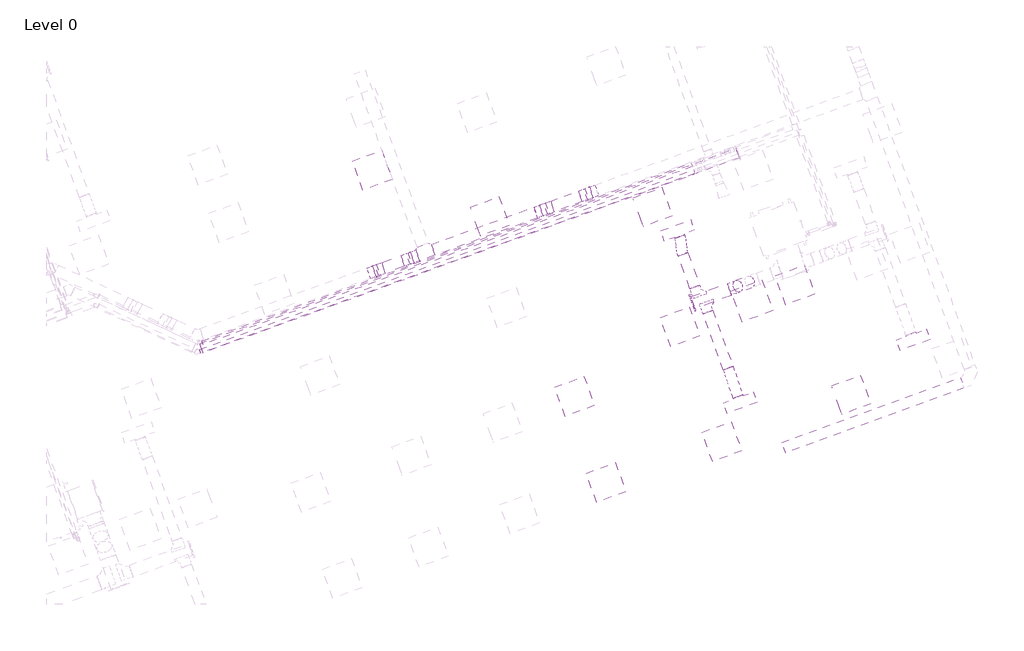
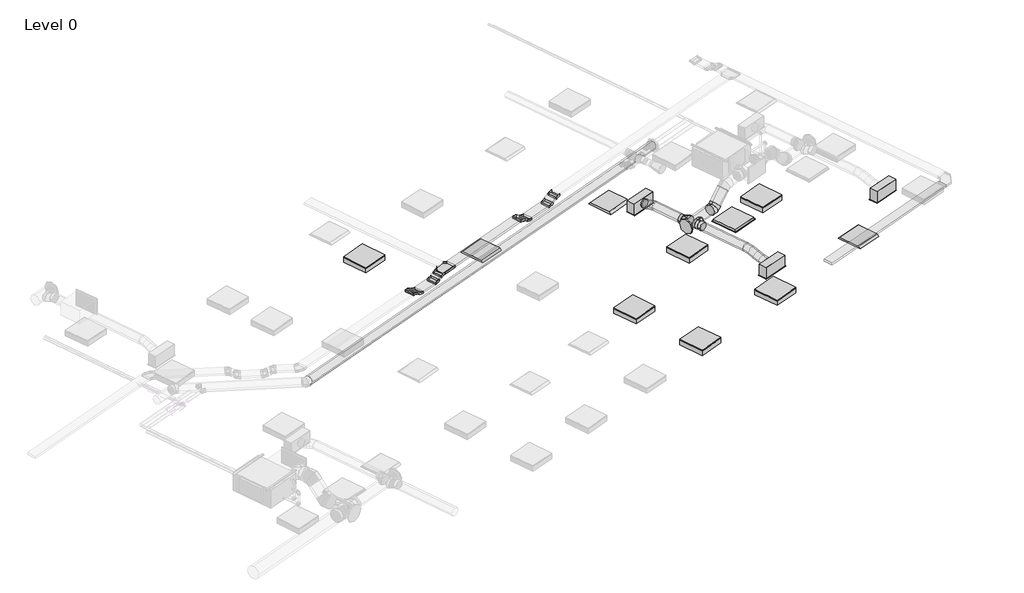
# One storey, part 28 of 34: 9 cable carrier fittings, 9 light fixtures, 8 cable carrier segments, 7 duct segments, 4 air terminals, 4 duct fittings, 2 pipe segments.
"""IFC4 building model written with IfcOpenShell, lengths in millimetres."""

from ifc_helpers import new_model, si_unit, point, frame, frame_2d, origin, place, context, project, spatial, polyline, circle_curve, ellipse_curve, trimmed, segment, composite_curve, outline, extrude, transform, mapped, element, save
from ifc_brep_helpers import plane_surface, cylinder_surface, advanced_brep
from components import return_grille_rectangular_hosted_standard_7b12617c, supply_diffuser_with_plenum_linear_slot_hosted_8c379eed, cable_tray_horizontal_tee_standard_d76b5e15, cable_tray_vertical_inside_bend_standard_9a66f55b, cable_tray_vertical_outside_bend_standard_4df2047e, dw144_round_blank_end_standard_e3d0b58b, dw144_round_segmented_bend_slip_joint_standard_636bd9c1, dw144_round_shoe_branch_slip_joint1_standard_2_559552f4, light_fixture_b730b5ca, troffer_light_2x2_parabolic_2_x2_2_lamp_120v_6a063ff3

model = new_model("IFC4")

# Units and contexts
model_context = context("Model", 3, world=origin())
ifc_project = project(units=[si_unit("LENGTHUNIT", "METRE", prefix="MILLI")], contexts=[model_context])

# Site, building, storey
site = spatial("IfcSite", under=ifc_project)
building = spatial("IfcBuilding", under=site)
storey = spatial("IfcBuildingStorey", under=building, Name="Level 0", Elevation=0.0)

# Air terminals
placement = place(None, origin())
return_grille_rectangular_hosted_standard_shape = return_grille_rectangular_hosted_standard_7b12617c(model_context)
element("IfcAirTerminal", 1, ObjectType="Return Grille - Rectangular - Hosted : Standard", at=placement, inside=storey, context=model_context, shape_type="MappedRepresentation", body=[
    mapped(return_grille_rectangular_hosted_standard_shape, transform((60068.7424503, 13719.2784407, 2800.0), x_axis=(0.9396926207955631, 0.3420201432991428, 0.0), y_axis=(0.3420201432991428, -0.9396926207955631, 0.0), z_axis=(0.0, 0.0, -1.0))),
])
supply_diffuser_with_plenum_linear_slot_hosted_shape = supply_diffuser_with_plenum_linear_slot_hosted_8c379eed(model_context)
element("IfcAirTerminal", 2, ObjectType="Supply Diffuser with Plenum - Linear Slot - Hosted : 24\" x 8\"-200 In Inlet  4-Slot", at=placement, inside=storey, context=model_context, shape_type="MappedRepresentation", body=[
    mapped(supply_diffuser_with_plenum_linear_slot_hosted_shape, transform((58607.3828335, 15102.9070291, 2800.0), x_axis=(-0.9396926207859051, -0.3420201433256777, 0.0), y_axis=(-0.3420201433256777, 0.9396926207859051, 0.0), z_axis=(0.0, 0.0, -1.0))),
])
element("IfcAirTerminal", 3, ObjectType="Supply Diffuser with Plenum - Linear Slot - Hosted : 24\" x 8\"-200 In Inlet  4-Slot", at=placement, inside=storey, context=model_context, shape_type="MappedRepresentation", body=[
    mapped(supply_diffuser_with_plenum_linear_slot_hosted_shape, transform((59838.6553495, 11720.0135943, 2800.0), x_axis=(0.9396926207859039, 0.342020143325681, 0.0), y_axis=(0.342020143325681, -0.9396926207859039, 0.0), z_axis=(0.0, 0.0, -1.0))),
])
element("IfcAirTerminal", 4, ObjectType="Supply Diffuser with Plenum - Linear Slot - Hosted : 24\" x 8\"-200 In Inlet  4-Slot", at=placement, inside=storey, context=model_context, shape_type="MappedRepresentation", body=[
    mapped(supply_diffuser_with_plenum_linear_slot_hosted_shape, transform((63232.5431876, 12955.2877458, 2800.0), x_axis=(0.9396926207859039, 0.342020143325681, 0.0), y_axis=(0.342020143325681, -0.9396926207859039, 0.0), z_axis=(0.0, 0.0, -1.0))),
])

# Cable carrier fittings
cable_tray_horizontal_tee_standard_shape = cable_tray_horizontal_tee_standard_d76b5e15(model_context)
element("IfcCableCarrierFitting", 5, ObjectType="Cable Tray Horizontal Tee : Standard", at=placement, inside=storey, context=model_context, shape_type="MappedRepresentation", body=[
    mapped(cable_tray_horizontal_tee_standard_shape, transform((53662.1916852, 14665.8825169, 3248.9627355), x_axis=(-0.9396926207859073, -0.3420201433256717, 0.0), y_axis=(0.3420201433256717, -0.9396926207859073, 0.0), z_axis=(0.0, 0.0, 1.0))),
])
cable_tray_vertical_inside_bend_standard_shape = cable_tray_vertical_inside_bend_standard_9a66f55b(model_context)
element("IfcCableCarrierFitting", 6, ObjectType="Cable Tray Vertical Inside Bend : Standard", at=placement, inside=storey, context=model_context, shape_type="MappedRepresentation", body=[
    mapped(cable_tray_vertical_inside_bend_standard_shape, transform((56092.1995201, 15550.3330379, 3125.0), x_axis=(-0.9396926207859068, -0.3420201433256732, 0.0), y_axis=(0.0, 0.0, 1.0), z_axis=(-0.3420201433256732, 0.9396926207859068, 0.0))),
])
element("IfcCableCarrierFitting", 7, ObjectType="Cable Tray Vertical Inside Bend : Standard", at=placement, inside=storey, context=model_context, shape_type="MappedRepresentation", body=[
    mapped(cable_tray_vertical_inside_bend_standard_shape, transform((56761.0702068, 15793.7820584, 3125.0), x_axis=(-0.8137976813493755, -0.29619813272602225, -0.4999999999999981), y_axis=(-0.46984631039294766, -0.17101007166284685, 0.8660254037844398), z_axis=(-0.3420201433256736, 0.9396926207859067, 0.0))),
])
element("IfcCableCarrierFitting", 8, ObjectType="Cable Tray Vertical Inside Bend : Standard", at=placement, inside=storey, context=model_context, shape_type="MappedRepresentation", body=[
    mapped(cable_tray_vertical_inside_bend_standard_shape, transform((52776.5170732, 14343.5233209, 3148.9627355), x_axis=(-0.9396926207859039, -0.3420201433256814, 0.0), y_axis=(0.0, 0.0, 1.0000000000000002), z_axis=(-0.3420201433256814, 0.9396926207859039, 0.0))),
])
element("IfcCableCarrierFitting", 9, ObjectType="Cable Tray Vertical Inside Bend : Standard", at=placement, inside=storey, context=model_context, shape_type="MappedRepresentation", body=[
    mapped(cable_tray_vertical_inside_bend_standard_shape, transform((53283.7846283, 14528.1536118, 3148.9627355), x_axis=(-0.8137976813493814, -0.29619813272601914, -0.4999999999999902), y_axis=(-0.4698463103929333, -0.17101007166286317, 0.8660254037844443), z_axis=(-0.3420201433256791, 0.9396926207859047, 0.0))),
])
cable_tray_vertical_outside_bend_standard_shape = cable_tray_vertical_outside_bend_standard_4df2047e(model_context)
element("IfcCableCarrierFitting", 10, ObjectType="Cable Tray Vertical Outside Bend : Standard", at=placement, inside=storey, context=model_context, shape_type="MappedRepresentation", body=[
    mapped(cable_tray_vertical_outside_bend_standard_shape, transform((55890.4383468, 15476.8979763, 3248.9627355), x_axis=(0.9396926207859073, 0.3420201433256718, 0.0), y_axis=(0.0, 0.0, -1.0000000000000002), z_axis=(-0.3420201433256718, 0.9396926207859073, 0.0))),
])
element("IfcCableCarrierFitting", 11, ObjectType="Cable Tray Vertical Outside Bend : Standard", at=placement, inside=storey, context=model_context, shape_type="MappedRepresentation", body=[
    mapped(cable_tray_vertical_outside_bend_standard_shape, transform((56962.8313802, 15867.2171199, 3248.9627355), x_axis=(0.8137976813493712, 0.29619813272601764, 0.5000000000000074), y_axis=(0.4698463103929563, 0.17101007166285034, -0.8660254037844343), z_axis=(-0.3420201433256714, 0.9396926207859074, 0.0))),
])
element("IfcCableCarrierFitting", 12, ObjectType="Cable Tray Vertical Outside Bend : Standard", at=placement, inside=storey, context=model_context, shape_type="MappedRepresentation", body=[
    mapped(cable_tray_vertical_outside_bend_standard_shape, transform((52613.757537, 14284.2836944, 3248.9627355), x_axis=(0.9396926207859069, 0.34202014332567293, 0.0), y_axis=(0.0, 0.0, -1.0), z_axis=(-0.34202014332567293, 0.9396926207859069, 0.0))),
])
element("IfcCableCarrierFitting", 13, ObjectType="Cable Tray Vertical Outside Bend : Standard", at=placement, inside=storey, context=model_context, shape_type="MappedRepresentation", body=[
    mapped(cable_tray_vertical_outside_bend_standard_shape, transform((53446.5441646, 14587.3932383, 3248.9627355), x_axis=(0.8137976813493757, 0.29619813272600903, 0.5000000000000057), y_axis=(0.4698463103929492, 0.17101007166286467, -0.8660254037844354), z_axis=(-0.34202014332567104, 0.9396926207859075, 0.0))),
])

# Cable carrier segments
element("IfcCableCarrierSegment", 14, ObjectType="Perforated Cable Tray", at=placement, inside=storey, context=model_context, shape_type="SweptSolid", body=[
    extrude(outline(polyline([(53853.3690022, 14615.7453704), (53776.4144699, 14827.17621), (55789.0136109, 15559.7023909), (55865.9681432, 15348.2715512), (53853.3690022, 14615.7453704)])), frame((0.0, 0.0, 3223.9627355), z_axis=(0.0, 0.0, 1.0), x_axis=(1.0, 0.0, 0.0)), (0.0, 0.0, 1.0), 50.0),
])
element("IfcCableCarrierSegment", 15, ObjectType="Perforated Cable Tray", at=placement, inside=storey, context=model_context, shape_type="SweptSolid", body=[
    extrude(outline(polyline([(0.0, -225.0), (0.0, 0.0), (113.9508747, 0.0), (113.9508747, -225.0), (0.0, -225.0)])), frame((55894.7290307, 15598.179657, 3193.8184513), z_axis=(0.4698463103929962, 0.1710100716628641, 0.8660254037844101), x_axis=(0.8137976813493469, 0.29619813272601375, -0.5000000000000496)), (0.0, 0.0, 1.0), 50.0),
])
element("IfcCableCarrierSegment", 16, ObjectType="Perforated Cable Tray", at=placement, inside=storey, context=model_context, shape_type="SweptSolid", body=[
    extrude(outline(polyline([(56193.624256, 15467.5286233), (56116.6697237, 15678.959463), (56659.645471, 15876.5864729), (56736.6000032, 15665.1556332), (56193.624256, 15467.5286233)])), frame((0.0, 0.0, 3100.0), z_axis=(0.0, 0.0, 1.0), x_axis=(1.0, 0.0, 0.0)), (0.0, 0.0, 1.0), 50.0),
])
element("IfcCableCarrierSegment", 17, ObjectType="Perforated Cable Tray", at=placement, inside=storey, context=model_context, shape_type="SweptSolid", body=[
    extrude(outline(polyline([(1e-07, -224.9999999), (0.0, 0.0), (113.9508747, 0.0), (113.9508747, -224.9999999), (1e-07, -224.9999999)])), frame((56788.8532063, 15923.6142426, 3136.843014), z_axis=(-0.4698463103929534, -0.17101007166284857, 0.8660254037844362), x_axis=(0.813797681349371, 0.2961981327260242, 0.5000000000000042)), (0.0, 0.0, 1.0), 50.0),
])
element("IfcCableCarrierSegment", 18, ObjectType="Perforated Cable Tray", at=placement, inside=storey, context=model_context, shape_type="SweptSolid", body=[
    extrude(outline(polyline([(64157.7578179, 12218.7489992), (64234.7123502, 12007.3181595), (60729.218143, 10731.4226117), (60652.2636108, 10942.8534514), (64157.7578179, 12218.7489992)])), frame((0.0, 0.0, 3223.9627355), z_axis=(0.0, 0.0, 1.0), x_axis=(1.0, 0.0, 0.0)), (0.0, 0.0, 1.0), 50.0),
])
element("IfcCableCarrierSegment", 19, ObjectType="Perforated Cable Tray", at=placement, inside=storey, context=model_context, shape_type="SweptSolid", body=[
    extrude(outline(polyline([(1e-07, -224.9999999), (0.0, 0.0), (66.0254039, 0.0), (66.0254038, -225.0), (1e-07, -224.9999999)])), frame((52618.0482209, 14405.565375, 3193.8184513), z_axis=(0.46984631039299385, 0.17101007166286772, 0.8660254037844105), x_axis=(0.8137976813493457, 0.2961981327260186, -0.5000000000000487)), (0.0, 0.0, 1.0), 50.0),
])
element("IfcCableCarrierSegment", 20, ObjectType="Perforated Cable Tray", at=placement, inside=storey, context=model_context, shape_type="SweptSolid", body=[
    extrude(outline(polyline([(52877.9418091, 14260.7189064), (52800.9872768, 14472.149746), (53182.3598925, 14610.9580263), (53259.3144247, 14399.5271866), (52877.9418091, 14260.7189064)])), frame((0.0, 0.0, 3123.9627355), z_axis=(0.0, 0.0, 1.0), x_axis=(1.0, 0.0, 0.0)), (0.0, 0.0, 1.0), 50.0),
])
element("IfcCableCarrierSegment", 21, ObjectType="Perforated Cable Tray", at=placement, inside=storey, context=model_context, shape_type="SweptSolid", body=[
    extrude(outline(polyline([(0.0, -225.0), (0.0, 0.0), (66.0254038, 0.0), (66.0254038, -225.0), (0.0, -225.0)])), frame((53311.5676278, 14657.985796, 3160.8057494), z_axis=(-0.46984631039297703, -0.17101007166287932, 0.8660254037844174), x_axis=(0.8137976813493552, 0.2961981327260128, 0.5000000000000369)), (0.0, 0.0, 1.0), 50.0),
])

# Duct fittings
dw144_round_blank_end_standard_shape = dw144_round_blank_end_standard_e3d0b58b(model_context)
element("IfcDuctFitting", 22, ObjectType="DW144 Round Blank End : Standard", at=placement, inside=storey, context=model_context, shape_type="MappedRepresentation", body=[
    mapped(dw144_round_blank_end_standard_shape, transform((58910.1934303, 13684.7593256, 3072.2088531), x_axis=(-0.9396926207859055, -0.3420201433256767, 0.0), y_axis=(0.3420201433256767, -0.9396926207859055, 0.0), z_axis=(0.0, 0.0, 1.0))),
])
dw144_round_segmented_bend_slip_joint_standard_shape = dw144_round_segmented_bend_slip_joint_standard_636bd9c1(model_context)
element("IfcDuctFitting", 23, ObjectType="DW144 Round Segmented Bend - Slip Joint : Standard", at=placement, inside=storey, context=model_context, shape_type="MappedRepresentation", body=[
    mapped(dw144_round_segmented_bend_slip_joint_standard_shape, transform((59723.6586367, 13980.8364474, 3072.2088531), x_axis=(-0.6644630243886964, -0.24184476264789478, -0.7071067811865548), y_axis=(-0.6644630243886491, -0.24184476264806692, 0.7071067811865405), z_axis=(-0.34202014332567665, 0.9396926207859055, 0.0))),
])
dw144_round_shoe_branch_slip_joint1_standard_2_shape = dw144_round_shoe_branch_slip_joint1_standard_2_559552f4(model_context)
element("IfcDuctFitting", 24, ObjectType="DW144 Round Shoe Branch - Slip Joint1 : Standard 2", at=placement, inside=storey, context=model_context, shape_type="MappedRepresentation", body=[
    mapped(dw144_round_shoe_branch_slip_joint1_standard_2_shape, transform((58998.2785619, 13849.8419132, 3072.2088531), x_axis=(-0.3420201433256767, 0.9396926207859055, 0.0), y_axis=(0.9396926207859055, 0.3420201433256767, 0.0), z_axis=(0.0, 0.0, -1.0))),
])
element("IfcDuctFitting", 25, ObjectType="DW144 Round Shoe Branch - Slip Joint1 : Standard 2", at=placement, inside=storey, context=model_context, shape_type="MappedRepresentation", body=[
    mapped(dw144_round_shoe_branch_slip_joint1_standard_2_shape, transform((59152.3357519, 13639.8697016, 3072.2088531), x_axis=(0.3420201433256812, -0.9396926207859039, 0.0), y_axis=(0.9396926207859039, 0.3420201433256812, 0.0), z_axis=(0.0, 0.0, 1.0))),
])

# Duct segments
element("IfcDuctSegment", 26, ObjectType="DW144 Segmented Bend / Shoe Branch", at=placement, inside=storey, context=model_context, shape_type="SweptSolid", body=[
    extrude(outline(composite_curve([segment(trimmed(circle_curve(frame_2d((0.0, 125.0)), 125.0), [point((125.0, 125.0))], [point((0.0, 0.0))], False, "CARTESIAN"), True, "CONTINUOUS"), segment(trimmed(circle_curve(frame_2d((0.0, 125.0)), 125.0), [point((0.0, 0.0))], [point((-125.0, 125.0))], False, "CARTESIAN"), True, "CONTINUOUS"), segment(trimmed(circle_curve(frame_2d((0.0, 125.0)), 125.0), [point((-125.0, 125.0))], [point((0.0, 250.0))], False, "CARTESIAN"), True, "CONTINUOUS"), segment(trimmed(circle_curve(frame_2d((0.0, 125.0)), 125.0), [point((0.0, 250.0))], [point((125.0, 125.0))], False, "CARTESIAN"), True, "CONTINUOUS")], self_intersect=False)), frame((58910.1934303, 13684.7593256, 3197.2088531), z_axis=(0.9396926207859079, 0.3420201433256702, 0.0), x_axis=(0.3420201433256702, -0.9396926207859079, 0.0)), (0.0, 0.0, 1.0), 762.1182008),
])
element("IfcDuctSegment", 27, ObjectType="DW144 Segmented Bend / Shoe Branch", at=placement, inside=storey, context=model_context, shape_type="SweptSolid", body=[
    extrude(outline(composite_curve([segment(trimmed(circle_curve(frame_2d((0.0, -100.0)), 100.0), [point((-100.0, -100.0))], [point((0.0, 0.0))], False, "CARTESIAN"), True, "CONTINUOUS"), segment(trimmed(circle_curve(frame_2d((0.0, -100.0)), 100.0), [point((0.0, 0.0))], [point((100.0, -100.0))], False, "CARTESIAN"), True, "CONTINUOUS"), segment(trimmed(circle_curve(frame_2d((0.0, -100.0)), 100.0), [point((100.0, -100.0))], [point((0.0, -200.0))], False, "CARTESIAN"), True, "CONTINUOUS"), segment(trimmed(circle_curve(frame_2d((0.0, -100.0)), 100.0), [point((0.0, -200.0))], [point((-100.0, -100.0))], False, "CARTESIAN"), True, "CONTINUOUS")], self_intersect=False)), frame((58946.9755404, 13990.7958063, 2972.2088531), z_axis=(-0.3420201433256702, 0.9396926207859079, 0.0), x_axis=(0.9396926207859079, 0.3420201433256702, 0.0)), (0.0, 0.0, 1.0), 682.8884371),
])
element("IfcDuctSegment", 28, ObjectType="DW144 Segmented Bend / Shoe Branch", at=placement, inside=storey, context=model_context, shape_type="SweptSolid", body=[
    extrude(outline(composite_curve([segment(trimmed(circle_curve(frame_2d((0.0, -100.0)), 100.0), [point((-100.0, -100.0))], [point((0.0, 0.0))], False, "CARTESIAN"), True, "CONTINUOUS"), segment(trimmed(circle_curve(frame_2d((0.0, -100.0)), 100.0), [point((0.0, 0.0))], [point((100.0, -100.0))], False, "CARTESIAN"), True, "CONTINUOUS"), segment(trimmed(circle_curve(frame_2d((0.0, -100.0)), 100.0), [point((100.0, -100.0))], [point((0.0, -200.0))], False, "CARTESIAN"), True, "CONTINUOUS"), segment(trimmed(circle_curve(frame_2d((0.0, -100.0)), 100.0), [point((0.0, -200.0))], [point((-100.0, -100.0))], False, "CARTESIAN"), True, "CONTINUOUS")], self_intersect=False)), frame((59604.382353, 12397.8818724, 2972.2088531), z_axis=(-0.3420201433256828, 0.9396926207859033, 0.0), x_axis=(0.9396926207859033, 0.3420201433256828, 0.0)), (0.0, 0.0, 1.0), 1171.6958415),
])
element("IfcDuctSegment", 29, ObjectType="DW144 Segmented Bend / Shoe Branch", at=placement, inside=storey, context=model_context, shape_type="SweptSolid", body=[
    extrude(outline(composite_curve([segment(trimmed(circle_curve(frame_2d((0.0, -125.0)), 125.0), [point((-57.2076922, -13.8591887))], [point((111.1408113, -67.7923077))], False, "CARTESIAN"), True, "CONTINUOUS"), segment(trimmed(circle_curve(frame_2d((0.0, -125.0)), 125.0), [point((111.1408113, -67.7923077))], [point((57.2076923, -236.1408114))], False, "CARTESIAN"), True, "CONTINUOUS"), segment(trimmed(circle_curve(frame_2d((0.0, -125.0)), 125.0), [point((57.2076923, -236.1408114))], [point((-111.1408114, -182.2076923))], False, "CARTESIAN"), True, "CONTINUOUS"), segment(trimmed(circle_curve(frame_2d((0.0, -125.0)), 125.0), [point((-111.1408114, -182.2076923))], [point((-57.2076922, -13.8591887))], False, "CARTESIAN"), True, "CONTINUOUS")], self_intersect=False)), frame((59792.4660358, 14124.1538736, 3104.9802107), z_axis=(0.6644630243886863, 0.24184476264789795, 0.7071067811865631), x_axis=(0.7473211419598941, -0.21503058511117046, -0.6287073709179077)), (0.0, 0.0, 1.0), 354.8538129),
])
element("IfcDuctSegment", 30, ObjectType="DW144 Segmented Bend / Shoe Branch", at=placement, inside=storey, context=model_context, shape_type="SweptSolid", body=[
    extrude(outline(composite_curve([segment(trimmed(circle_curve(frame_2d((0.0, 100.0)), 100.0), [point((100.0, 100.0))], [point((0.0, 0.0))], False, "CARTESIAN"), True, "CONTINUOUS"), segment(trimmed(circle_curve(frame_2d((0.0, 100.0)), 100.0), [point((0.0, 0.0))], [point((-100.0, 100.0))], False, "CARTESIAN"), True, "CONTINUOUS"), segment(trimmed(circle_curve(frame_2d((0.0, 100.0)), 100.0), [point((-100.0, 100.0))], [point((0.0, 200.0))], False, "CARTESIAN"), True, "CONTINUOUS"), segment(trimmed(circle_curve(frame_2d((0.0, 100.0)), 100.0), [point((0.0, 200.0))], [point((100.0, 100.0))], False, "CARTESIAN"), True, "CONTINUOUS")], self_intersect=False)), frame((49264.7509772, 12791.2817801, 3150.0), z_axis=(0.9396926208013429, 0.3420201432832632, 0.0), x_axis=(0.3420201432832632, -0.9396926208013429, 0.0)), (0.0, 0.0, 1.0), 11193.8317045),
])
element("IfcDuctSegment", 31, ObjectType="Flex - Round", at=placement, inside=storey, context=model_context, shape_type="AdvancedBrep", body=[
    advanced_brep(
    [(58619.4446772, 14598.2990171, 3072.2088531), (58713.4139393, 14632.5010315, 2972.2088531), (58807.3832013, 14666.7030458, 3072.2088531), (58713.4139393, 14632.5010315, 3172.2088531), (58611.8142221, 14619.26352, 3072.2088531), (58711.4296321, 14637.9528704, 2972.2088531), (58803.6155299, 14677.054638, 3072.2088531), (58704.0001199, 14658.3652876, 3172.2088531), (58557.4999679, 14947.578636, 2954.4), (58651.46923, 14981.7806503, 3054.4), (58745.4384921, 15015.9826646, 2954.4), (58651.46923, 14981.7806503, 2854.4), (58596.4446641, 14683.4841683, 3057.7411781), (58702.9406834, 14673.4233627, 2964.2180345), (58792.9533059, 14721.6060124, 3062.1722867), (58686.4572866, 14731.6668179, 3155.6954303), (58586.4251451, 14759.2467003, 3026.0114711), (58695.241092, 14731.6437764, 2939.8350497), (58784.5209536, 14785.3671928, 3035.4688025), (58675.7050067, 14812.9701167, 3121.645224), (58580.3622156, 14828.914489, 2991.1400506), (58689.1781625, 14801.3115651, 2904.9636291), (58778.4580242, 14855.0349815, 3000.597382), (58669.6420773, 14882.6379054, 3086.7738035), (58571.9298634, 14892.6756694, 2964.4365665), (58678.4258827, 14882.6148638, 2870.9134228), (58768.4385052, 14930.7975135, 2968.867675), (58661.9424858, 14940.858319, 3062.3908187), (58561.2676394, 14937.2270437, 2954.4), (58660.8830494, 14955.9163941, 2854.4), (58753.0689471, 14995.0181618, 2954.4), (58653.4535371, 14976.3288113, 3054.4)],
    [
        (0, 1, circle_curve(frame((58713.4139393, 14632.5010315, 3072.2088531), z_axis=(0.3420201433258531, -0.9396926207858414, 0.0), x_axis=(-0.9396926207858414, -0.3420201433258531, 0.0)), 100.0)),
        (1, 2, circle_curve(frame((58713.4139393, 14632.5010315, 3072.2088531), z_axis=(0.3420201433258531, -0.9396926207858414, 0.0), x_axis=(-0.9396926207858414, -0.3420201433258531, 0.0)), 100.0)),
        (2, 3, circle_curve(frame((58713.4139393, 14632.5010315, 3072.2088531), z_axis=(0.3420201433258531, -0.9396926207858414, 0.0), x_axis=(-0.9396926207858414, -0.3420201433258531, 0.0)), 100.0)),
        (3, 0, circle_curve(frame((58713.4139393, 14632.5010315, 3072.2088531), z_axis=(0.3420201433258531, -0.9396926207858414, 0.0), x_axis=(-0.9396926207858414, -0.3420201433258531, 0.0)), 100.0)),
        (0, 4),
        (4, 5, ellipse_curve(frame((58707.714876, 14648.159079, 3072.2088531), z_axis=(0.2868145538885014, -0.951900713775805, 0.10780743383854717), x_axis=(0.47182638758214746, 0.042424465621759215, -0.8806702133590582)), 100.746488, 100.0)),
        (5, 1),
        (5, 6, ellipse_curve(frame((58707.714876, 14648.159079, 3072.2088531), z_axis=(0.2868145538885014, -0.951900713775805, 0.10780743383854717), x_axis=(0.47182638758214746, 0.042424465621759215, -0.8806702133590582)), 100.746488, 100.0)),
        (6, 2),
        (6, 7, ellipse_curve(frame((58707.714876, 14648.159079, 3072.2088531), z_axis=(0.2868145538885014, -0.951900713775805, 0.10780743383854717), x_axis=(0.47182638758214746, 0.042424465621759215, -0.8806702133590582)), 100.746488, 100.0)),
        (7, 3),
        (7, 4, ellipse_curve(frame((58707.714876, 14648.159079, 3072.2088531), z_axis=(0.2868145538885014, -0.951900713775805, 0.10780743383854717), x_axis=(0.47182638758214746, 0.042424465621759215, -0.8806702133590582)), 100.746488, 100.0)),
        (8, 9, circle_curve(frame((58651.46923, 14981.7806503, 2954.4), z_axis=(-0.3420201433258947, 0.939692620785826, 0.0), x_axis=(-0.9396926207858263, -0.34202014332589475, 0.0)), 100.0)),
        (9, 10, circle_curve(frame((58651.46923, 14981.7806503, 2954.4), z_axis=(-0.3420201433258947, 0.939692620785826, 0.0), x_axis=(-0.9396926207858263, -0.34202014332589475, 0.0)), 100.0)),
        (10, 11, circle_curve(frame((58651.46923, 14981.7806503, 2954.4), z_axis=(-0.3420201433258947, 0.939692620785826, 0.0), x_axis=(-0.9396926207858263, -0.34202014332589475, 0.0)), 100.0)),
        (11, 8, circle_curve(frame((58651.46923, 14981.7806503, 2954.4), z_axis=(-0.3420201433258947, 0.939692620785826, 0.0), x_axis=(-0.9396926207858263, -0.34202014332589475, 0.0)), 100.0)),
        (4, 12),
        (12, 13, ellipse_curve(frame((58694.698985, 14702.5450903, 3059.9567324), z_axis=(0.17512607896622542, -0.9376352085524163, 0.3002849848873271), x_axis=(0.5236540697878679, -0.16957305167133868, -0.8348840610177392)), 100.5188435, 100.0)),
        (13, 5),
        (13, 14, ellipse_curve(frame((58694.698985, 14702.5450903, 3059.9567324), z_axis=(0.17512607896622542, -0.9376352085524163, 0.3002849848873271), x_axis=(0.5236540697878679, -0.16957305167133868, -0.8348840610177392)), 100.5188435, 100.0)),
        (14, 6),
        (14, 15, ellipse_curve(frame((58694.698985, 14702.5450903, 3059.9567324), z_axis=(0.17512607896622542, -0.9376352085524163, 0.3002849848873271), x_axis=(0.5236540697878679, -0.16957305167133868, -0.8348840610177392)), 100.5188435, 100.0)),
        (15, 7),
        (15, 12, ellipse_curve(frame((58694.698985, 14702.5450903, 3059.9567324), z_axis=(0.17512607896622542, -0.9376352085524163, 0.3002849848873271), x_axis=(0.5236540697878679, -0.16957305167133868, -0.8348840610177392)), 100.5188435, 100.0)),
        (12, 16),
        (16, 17, ellipse_curve(frame((58685.4730493, 14772.3069465, 3030.7401368), z_axis=(0.0994162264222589, -0.9042889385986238, 0.4151842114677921), x_axis=(0.5431382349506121, -0.3002937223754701, -0.7841074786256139)), 100.0802707, 100.0)),
        (17, 13),
        (17, 18, ellipse_curve(frame((58685.4730493, 14772.3069465, 3030.7401368), z_axis=(0.0994162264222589, -0.9042889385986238, 0.4151842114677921), x_axis=(0.5431382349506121, -0.3002937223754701, -0.7841074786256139)), 100.0802707, 100.0)),
        (18, 14),
        (18, 19, ellipse_curve(frame((58685.4730493, 14772.3069465, 3030.7401368), z_axis=(0.0994162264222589, -0.9042889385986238, 0.4151842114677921), x_axis=(0.5431382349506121, -0.3002937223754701, -0.7841074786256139)), 100.0802707, 100.0)),
        (19, 15),
        (19, 16, ellipse_curve(frame((58685.4730493, 14772.3069465, 3030.7401368), z_axis=(0.0994162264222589, -0.9042889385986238, 0.4151842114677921), x_axis=(0.5431382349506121, -0.3002937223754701, -0.7841074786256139)), 100.0802707, 100.0)),
        (16, 20),
        (20, 21, ellipse_curve(frame((58679.4101199, 14841.9747352, 2995.8687163), z_axis=(0.09941622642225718, -0.9042889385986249, 0.41518421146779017), x_axis=(-0.5431382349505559, 0.30029372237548, 0.784107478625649)), 100.0802707, 100.0)),
        (21, 17),
        (21, 22, ellipse_curve(frame((58679.4101199, 14841.9747352, 2995.8687163), z_axis=(0.09941622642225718, -0.9042889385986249, 0.41518421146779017), x_axis=(-0.5431382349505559, 0.30029372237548, 0.784107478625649)), 100.0802707, 100.0)),
        (22, 18),
        (22, 23, ellipse_curve(frame((58679.4101199, 14841.9747352, 2995.8687163), z_axis=(0.09941622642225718, -0.9042889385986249, 0.41518421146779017), x_axis=(-0.5431382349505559, 0.30029372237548, 0.784107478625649)), 100.0802707, 100.0)),
        (23, 19),
        (23, 20, ellipse_curve(frame((58679.4101199, 14841.9747352, 2995.8687163), z_axis=(0.09941622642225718, -0.9042889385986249, 0.41518421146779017), x_axis=(-0.5431382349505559, 0.30029372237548, 0.784107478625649)), 100.0802707, 100.0)),
        (20, 24),
        (24, 25, ellipse_curve(frame((58670.1841843, 14911.7365914, 2966.6521207), z_axis=(0.1751260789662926, -0.9376352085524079, 0.3002849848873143), x_axis=(-0.523654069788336, 0.16957305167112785, 0.8348840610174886)), 100.5188435, 100.0)),
        (25, 21),
        (25, 26, ellipse_curve(frame((58670.1841843, 14911.7365914, 2966.6521207), z_axis=(0.1751260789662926, -0.9376352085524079, 0.3002849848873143), x_axis=(-0.523654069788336, 0.16957305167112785, 0.8348840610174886)), 100.5188435, 100.0)),
        (26, 22),
        (26, 27, ellipse_curve(frame((58670.1841843, 14911.7365914, 2966.6521207), z_axis=(0.1751260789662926, -0.9376352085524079, 0.3002849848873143), x_axis=(-0.523654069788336, 0.16957305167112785, 0.8348840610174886)), 100.5188435, 100.0)),
        (27, 23),
        (27, 24, ellipse_curve(frame((58670.1841843, 14911.7365914, 2966.6521207), z_axis=(0.1751260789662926, -0.9376352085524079, 0.3002849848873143), x_axis=(-0.523654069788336, 0.16957305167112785, 0.8348840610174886)), 100.5188435, 100.0)),
        (24, 28),
        (28, 29, ellipse_curve(frame((58657.1682932, 14966.1226027, 2954.4), z_axis=(0.2868145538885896, -0.95190071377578, 0.10780743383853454), x_axis=(-0.4718263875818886, -0.04242446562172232, 0.8806702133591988)), 100.746488, 100.0)),
        (29, 25),
        (29, 30, ellipse_curve(frame((58657.1682932, 14966.1226027, 2954.4), z_axis=(0.2868145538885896, -0.95190071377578, 0.10780743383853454), x_axis=(-0.4718263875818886, -0.04242446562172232, 0.8806702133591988)), 100.746488, 100.0)),
        (30, 26),
        (30, 31, ellipse_curve(frame((58657.1682932, 14966.1226027, 2954.4), z_axis=(0.2868145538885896, -0.95190071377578, 0.10780743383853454), x_axis=(-0.4718263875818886, -0.04242446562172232, 0.8806702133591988)), 100.746488, 100.0)),
        (31, 27),
        (31, 28, ellipse_curve(frame((58657.1682932, 14966.1226027, 2954.4), z_axis=(0.2868145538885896, -0.95190071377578, 0.10780743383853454), x_axis=(-0.4718263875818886, -0.04242446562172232, 0.8806702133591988)), 100.746488, 100.0)),
        (28, 8),
        (11, 29),
        (10, 30),
        (9, 31),
    ],
    [
        plane_surface(frame((58713.4139393, 14632.5010315, 3172.2088531), z_axis=(0.3420201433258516, -0.9396926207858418, 0.0), x_axis=(0.9396926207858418, 0.3420201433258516, 0.0))),
        cylinder_surface(frame((58713.4139393, 14632.5010315, 3072.2088531), z_axis=(0.3420201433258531, -0.9396926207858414, 0.0), x_axis=(-0.9396926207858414, -0.3420201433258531, 0.0)), 100.0),
        plane_surface(frame((58651.46923, 14981.7806503, 3054.4), z_axis=(-0.3420201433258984, 0.9396926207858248, 0.0), x_axis=(0.9396926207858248, 0.3420201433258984, 0.0))),
        cylinder_surface(frame((58707.714876, 14648.159079, 3072.2088531), z_axis=(0.2273586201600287, -0.950002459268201, 0.21401725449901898), x_axis=(-0.9718455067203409, -0.23530883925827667, -0.012085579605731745)), 100.0),
        cylinder_surface(frame((58694.698985, 14702.5450903, 3059.9567324), z_axis=(0.12108565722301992, -0.9155884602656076, 0.3834527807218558), x_axis=(-0.9882405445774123, -0.1475288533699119, -0.0401978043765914)), 100.0),
        cylinder_surface(frame((58685.4730493, 14772.3069465, 3030.7401368), z_axis=(0.07758731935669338, -0.8915388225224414, 0.44624963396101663), x_axis=(-0.9919133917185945, -0.1141206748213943, -0.05553642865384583)), 100.0),
        cylinder_surface(frame((58679.4101199, 14841.9747352, 2995.8687163), z_axis=(0.12108565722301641, -0.9155884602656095, 0.3834527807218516), x_axis=(-0.9882405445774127, -0.1475288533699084, -0.040197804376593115)), 100.0),
        cylinder_surface(frame((58670.1841843, 14911.7365914, 2966.6521207), z_axis=(0.22735862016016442, -0.950002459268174, 0.21401725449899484), x_axis=(-0.9718455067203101, -0.2353088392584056, -0.012085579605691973)), 100.0),
        cylinder_surface(frame((58657.1682932, 14966.1226027, 2954.4), z_axis=(0.34202014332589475, -0.9396926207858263, 0.0), x_axis=(-0.9396926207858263, -0.34202014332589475, 0.0)), 100.0),
    ],
    [
        (0, [[1, 2, 3, 4]]),
        (1, [[-1, 5, 6, 7]]),
        (1, [[-2, -7, 8, 9]]),
        (1, [[-3, -9, 10, 11]]),
        (1, [[-4, -11, 12, -5]]),
        (2, [[13, 14, 15, 16]]),
        (3, [[-6, 17, 18, 19]]),
        (3, [[-8, -19, 20, 21]]),
        (3, [[-10, -21, 22, 23]]),
        (3, [[-12, -23, 24, -17]]),
        (4, [[-18, 25, 26, 27]]),
        (4, [[-20, -27, 28, 29]]),
        (4, [[-22, -29, 30, 31]]),
        (4, [[-24, -31, 32, -25]]),
        (5, [[-26, 33, 34, 35]]),
        (5, [[-28, -35, 36, 37]]),
        (5, [[-30, -37, 38, 39]]),
        (5, [[-32, -39, 40, -33]]),
        (6, [[-34, 41, 42, 43]]),
        (6, [[-36, -43, 44, 45]]),
        (6, [[-38, -45, 46, 47]]),
        (6, [[-40, -47, 48, -41]]),
        (7, [[-42, 49, 50, 51]]),
        (7, [[-44, -51, 52, 53]]),
        (7, [[-46, -53, 54, 55]]),
        (7, [[-48, -55, 56, -49]]),
        (8, [[-50, 57, -16, 58]]),
        (8, [[-52, -58, -15, 59]]),
        (8, [[-54, -59, -14, 60]]),
        (8, [[-56, -60, -13, -57]]),
    ],
),
])
element("IfcDuctSegment", 32, ObjectType="Flex - Round", at=placement, inside=storey, context=model_context, shape_type="AdvancedBrep", body=[
    advanced_brep(
    [(59698.3516151, 12432.0838867, 3072.2088531), (59604.382353, 12397.8818724, 2972.2088531), (59510.4130909, 12363.6798581, 3072.2088531), (59604.382353, 12397.8818724, 3172.2088531), (59702.7973117, 12419.8694356, 3072.2088531), (59606.2920858, 12392.6349247, 2972.2088531), (59514.400583, 12352.7243137, 3072.2088531), (59610.9058089, 12379.9588246, 3172.2088531), (59888.5382151, 11875.3419875, 2954.4), (59794.5689531, 11841.1399731, 3054.4), (59700.599691, 11806.9379588, 2954.4), (59794.5689531, 11841.1399731, 2854.4), (59747.9755246, 12290.3457621, 3053.6205079), (59646.608591, 12277.0495237, 2955.6208327), (59558.7003698, 12225.7190439, 3053.9819318), (59660.0673034, 12239.0152823, 3151.981607), (59794.3190603, 12151.206309, 3012.94305), (59690.6737688, 12144.7504952, 2916.9431749), (59604.6322458, 12087.8155366, 3013.6658031), (59708.2775373, 12094.2713503, 3109.6656782), (59840.2509363, 12013.3028017, 2972.6269213), (59738.8840026, 12000.0065632, 2874.6272462), (59650.9757814, 11948.6760834, 2972.9883453), (59752.3427151, 11961.9723218, 3070.9880204), (59884.5507231, 11886.2975319, 2954.4), (59788.0454971, 11859.063021, 2854.4), (59696.1539943, 11819.15241, 2954.4), (59792.6592203, 11846.3869208, 3054.4)],
    [
        (0, 1, circle_curve(frame((59604.382353, 12397.8818724, 3072.2088531), z_axis=(-0.34202014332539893, 0.9396926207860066, 0.0), x_axis=(0.9396926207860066, 0.34202014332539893, 0.0)), 100.0)),
        (1, 2, circle_curve(frame((59604.382353, 12397.8818724, 3072.2088531), z_axis=(-0.34202014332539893, 0.9396926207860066, 0.0), x_axis=(0.9396926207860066, 0.34202014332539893, 0.0)), 100.0)),
        (2, 3, circle_curve(frame((59604.382353, 12397.8818724, 3072.2088531), z_axis=(-0.34202014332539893, 0.9396926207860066, 0.0), x_axis=(0.9396926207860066, 0.34202014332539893, 0.0)), 100.0)),
        (3, 0, circle_curve(frame((59604.382353, 12397.8818724, 3072.2088531), z_axis=(-0.34202014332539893, 0.9396926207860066, 0.0), x_axis=(0.9396926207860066, 0.34202014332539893, 0.0)), 100.0)),
        (0, 4),
        (4, 5, ellipse_curve(frame((59608.5989473, 12386.2968746, 3072.2088531), z_axis=(-0.33495707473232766, 0.9398272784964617, 0.06729371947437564), x_axis=(-0.11578366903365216, 0.029822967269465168, -0.9928266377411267)), 100.2294427, 100.0)),
        (5, 1),
        (5, 6, ellipse_curve(frame((59608.5989473, 12386.2968746, 3072.2088531), z_axis=(-0.33495707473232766, 0.9398272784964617, 0.06729371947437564), x_axis=(-0.11578366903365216, 0.029822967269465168, -0.9928266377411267)), 100.2294427, 100.0)),
        (6, 2),
        (6, 7, ellipse_curve(frame((59608.5989473, 12386.2968746, 3072.2088531), z_axis=(-0.33495707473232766, 0.9398272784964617, 0.06729371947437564), x_axis=(-0.11578366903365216, 0.029822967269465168, -0.9928266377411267)), 100.2294427, 100.0)),
        (7, 3),
        (7, 4, ellipse_curve(frame((59608.5989473, 12386.2968746, 3072.2088531), z_axis=(-0.33495707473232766, 0.9398272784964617, 0.06729371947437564), x_axis=(-0.11578366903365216, 0.029822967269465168, -0.9928266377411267)), 100.2294427, 100.0)),
        (8, 9, circle_curve(frame((59794.5689531, 11841.1399731, 2954.4), z_axis=(0.3420201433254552, -0.9396926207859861, 0.0), x_axis=(0.9396926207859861, 0.3420201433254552, 0.0)), 100.0)),
        (9, 10, circle_curve(frame((59794.5689531, 11841.1399731, 2954.4), z_axis=(0.3420201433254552, -0.9396926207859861, 0.0), x_axis=(0.9396926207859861, 0.3420201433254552, 0.0)), 100.0)),
        (10, 11, circle_curve(frame((59794.5689531, 11841.1399731, 2954.4), z_axis=(0.3420201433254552, -0.9396926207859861, 0.0), x_axis=(0.9396926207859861, 0.3420201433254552, 0.0)), 100.0)),
        (11, 8, circle_curve(frame((59794.5689531, 11841.1399731, 2954.4), z_axis=(0.3420201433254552, -0.9396926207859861, 0.0), x_axis=(0.9396926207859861, 0.3420201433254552, 0.0)), 100.0)),
        (4, 12),
        (12, 13, ellipse_curve(frame((59653.3379472, 12258.032403, 3053.8012198), z_axis=(-0.3161714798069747, 0.9271110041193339, 0.20124805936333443), x_axis=(-0.16011775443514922, 0.15693918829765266, -0.9745421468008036)), 100.2336292, 100.0)),
        (13, 5),
        (13, 14, ellipse_curve(frame((59653.3379472, 12258.032403, 3053.8012198), z_axis=(-0.3161714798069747, 0.9271110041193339, 0.20124805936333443), x_axis=(-0.16011775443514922, 0.15693918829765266, -0.9745421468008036)), 100.2336292, 100.0)),
        (14, 6),
        (14, 15, ellipse_curve(frame((59653.3379472, 12258.032403, 3053.8012198), z_axis=(-0.3161714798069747, 0.9271110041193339, 0.20124805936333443), x_axis=(-0.16011775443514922, 0.15693918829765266, -0.9745421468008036)), 100.2336292, 100.0)),
        (15, 7),
        (15, 12, ellipse_curve(frame((59653.3379472, 12258.032403, 3053.8012198), z_axis=(-0.3161714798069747, 0.9271110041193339, 0.20124805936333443), x_axis=(-0.16011775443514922, 0.15693918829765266, -0.9745421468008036)), 100.2336292, 100.0)),
        (12, 16),
        (16, 17, circle_curve(frame((59699.475653, 12119.5109228, 3013.3044266), z_axis=(-0.3045086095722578, 0.9142410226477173, 0.26727861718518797), x_axis=(0.948434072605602, 0.3169538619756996, -0.0036137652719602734)), 100.0)),
        (17, 13),
        (17, 18, circle_curve(frame((59699.475653, 12119.5109228, 3013.3044266), z_axis=(-0.3045086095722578, 0.9142410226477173, 0.26727861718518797), x_axis=(0.948434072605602, 0.3169538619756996, -0.0036137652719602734)), 100.0)),
        (18, 14),
        (18, 19, circle_curve(frame((59699.475653, 12119.5109228, 3013.3044266), z_axis=(-0.3045086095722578, 0.9142410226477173, 0.26727861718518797), x_axis=(0.948434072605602, 0.3169538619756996, -0.0036137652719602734)), 100.0)),
        (19, 15),
        (19, 16, circle_curve(frame((59699.475653, 12119.5109228, 3013.3044266), z_axis=(-0.3045086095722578, 0.9142410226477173, 0.26727861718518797), x_axis=(0.948434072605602, 0.3169538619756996, -0.0036137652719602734)), 100.0)),
        (16, 20),
        (20, 21, ellipse_curve(frame((59745.6133588, 11980.9894425, 2972.8076333), z_axis=(-0.3161714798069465, 0.9271110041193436, 0.2012480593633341), x_axis=(0.16011775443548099, -0.1569391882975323, 0.9745421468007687)), 100.2336292, 100.0)),
        (21, 17),
        (21, 22, ellipse_curve(frame((59745.6133588, 11980.9894425, 2972.8076333), z_axis=(-0.3161714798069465, 0.9271110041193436, 0.2012480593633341), x_axis=(0.16011775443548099, -0.1569391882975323, 0.9745421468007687)), 100.2336292, 100.0)),
        (22, 18),
        (22, 23, ellipse_curve(frame((59745.6133588, 11980.9894425, 2972.8076333), z_axis=(-0.3161714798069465, 0.9271110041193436, 0.2012480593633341), x_axis=(0.16011775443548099, -0.1569391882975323, 0.9745421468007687)), 100.2336292, 100.0)),
        (23, 19),
        (23, 20, ellipse_curve(frame((59745.6133588, 11980.9894425, 2972.8076333), z_axis=(-0.3161714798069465, 0.9271110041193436, 0.2012480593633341), x_axis=(0.16011775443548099, -0.1569391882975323, 0.9745421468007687)), 100.2336292, 100.0)),
        (20, 24),
        (24, 25, ellipse_curve(frame((59790.3523587, 11852.7249709, 2954.4), z_axis=(-0.33495707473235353, 0.9398272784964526, 0.0672937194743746), x_axis=(0.11578366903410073, -0.02982296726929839, 0.9928266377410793)), 100.2294427, 100.0)),
        (25, 21),
        (25, 26, ellipse_curve(frame((59790.3523587, 11852.7249709, 2954.4), z_axis=(-0.33495707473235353, 0.9398272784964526, 0.0672937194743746), x_axis=(0.11578366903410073, -0.02982296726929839, 0.9928266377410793)), 100.2294427, 100.0)),
        (26, 22),
        (26, 27, ellipse_curve(frame((59790.3523587, 11852.7249709, 2954.4), z_axis=(-0.33495707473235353, 0.9398272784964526, 0.0672937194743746), x_axis=(0.11578366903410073, -0.02982296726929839, 0.9928266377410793)), 100.2294427, 100.0)),
        (27, 23),
        (27, 24, ellipse_curve(frame((59790.3523587, 11852.7249709, 2954.4), z_axis=(-0.33495707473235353, 0.9398272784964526, 0.0672937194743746), x_axis=(0.11578366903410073, -0.02982296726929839, 0.9928266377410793)), 100.2294427, 100.0)),
        (24, 8),
        (11, 25),
        (10, 26),
        (9, 27),
    ],
    [
        plane_surface(frame((59604.382353, 12397.8818724, 2972.2088531), z_axis=(-0.34202014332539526, 0.9396926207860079, 0.0), x_axis=(0.9396926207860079, 0.34202014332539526, 0.0))),
        cylinder_surface(frame((59604.382353, 12397.8818724, 3072.2088531), z_axis=(-0.34202014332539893, 0.9396926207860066, 0.0), x_axis=(0.9396926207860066, 0.34202014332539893, 0.0)), 100.0),
        plane_surface(frame((59794.5689531, 11841.1399731, 2854.4), z_axis=(0.34202014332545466, -0.9396926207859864, 0.0), x_axis=(0.9396926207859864, 0.34202014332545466, 0.0))),
        cylinder_surface(frame((59608.5989473, 12386.2968746, 3072.2088531), z_axis=(-0.32636045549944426, 0.9356590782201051, 0.13427934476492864), x_axis=(0.9441697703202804, 0.32945809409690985, -0.0008994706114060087)), 100.0),
        cylinder_surface(frame((59653.3379472, 12258.032403, 3053.8012198), z_axis=(-0.3045086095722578, 0.9142410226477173, 0.26727861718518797), x_axis=(0.948434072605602, 0.3169538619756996, -0.0036137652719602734)), 100.0),
        cylinder_surface(frame((59699.475653, 12119.5109228, 3013.3044266), z_axis=(-0.3045086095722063, 0.9142410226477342, 0.2672786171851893), x_axis=(0.9484340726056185, 0.31695386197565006, -0.0036137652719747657)), 100.0),
        cylinder_surface(frame((59745.6133588, 11980.9894425, 2972.8076333), z_axis=(-0.3263604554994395, 0.9356590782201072, 0.1342793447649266), x_axis=(0.9441697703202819, 0.32945809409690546, -0.000899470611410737)), 100.0),
        cylinder_surface(frame((59790.3523587, 11852.7249709, 2954.4), z_axis=(-0.3420201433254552, 0.9396926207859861, 0.0), x_axis=(0.9396926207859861, 0.3420201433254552, 0.0)), 100.0),
    ],
    [
        (0, [[1, 2, 3, 4]]),
        (1, [[-1, 5, 6, 7]]),
        (1, [[-2, -7, 8, 9]]),
        (1, [[-3, -9, 10, 11]]),
        (1, [[-4, -11, 12, -5]]),
        (2, [[13, 14, 15, 16]]),
        (3, [[-6, 17, 18, 19]]),
        (3, [[-8, -19, 20, 21]]),
        (3, [[-10, -21, 22, 23]]),
        (3, [[-12, -23, 24, -17]]),
        (4, [[-18, 25, 26, 27]]),
        (4, [[-20, -27, 28, 29]]),
        (4, [[-22, -29, 30, 31]]),
        (4, [[-24, -31, 32, -25]]),
        (5, [[-26, 33, 34, 35]]),
        (5, [[-28, -35, 36, 37]]),
        (5, [[-30, -37, 38, 39]]),
        (5, [[-32, -39, 40, -33]]),
        (6, [[-34, 41, 42, 43]]),
        (6, [[-36, -43, 44, 45]]),
        (6, [[-38, -45, 46, 47]]),
        (6, [[-40, -47, 48, -41]]),
        (7, [[-42, 49, -16, 50]]),
        (7, [[-44, -50, -15, 51]]),
        (7, [[-46, -51, -14, 52]]),
        (7, [[-48, -52, -13, -49]]),
    ],
),
])

# Light fixtures
light_fixture_shape = light_fixture_b730b5ca(model_context)
element("IfcLightFixture", 33, ObjectType="ELEKTRA EM Recessed Lighting Fixture : 24\" x 24\" - 230", at=placement, inside=storey, context=model_context, shape_type="MappedRepresentation", body=[
    mapped(light_fixture_shape, transform((54745.8414766, 14995.9306349, 2800.0), x_axis=(0.9396926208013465, 0.342020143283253, 0.0), y_axis=(0.342020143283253, -0.9396926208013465, 0.0), z_axis=(0.0, 0.0, -1.0))),
])
element("IfcLightFixture", 34, ObjectType="ELEKTRA EM Recessed Lighting Fixture : 24\" x 24\" - 230", at=placement, inside=storey, context=model_context, shape_type="MappedRepresentation", body=[
    mapped(light_fixture_shape, transform((61837.9201959, 11489.9264935, 2800.0), x_axis=(0.9396926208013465, 0.3420201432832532, 0.0), y_axis=(0.3420201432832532, -0.9396926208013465, 0.0), z_axis=(0.0, 0.0, -1.0))),
])
element("IfcLightFixture", 35, ObjectType="ELEKTRA EM Recessed Lighting Fixture : 24\" x 24\" - 230", at=placement, inside=storey, context=model_context, shape_type="MappedRepresentation", body=[
    mapped(light_fixture_shape, transform((57940.9612183, 15179.6027295, 2800.0), x_axis=(0.9396926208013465, 0.3420201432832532, 0.0), y_axis=(0.3420201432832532, -0.9396926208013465, 0.0), z_axis=(0.0, 0.0, -1.0))),
])
troffer_light_2x2_parabolic_2_x2_2_lamp_120v_shape = troffer_light_2x2_parabolic_2_x2_2_lamp_120v_6a063ff3(model_context)
element("IfcLightFixture", 36, ObjectType="Troffer Light - 2x2 Parabolic : 2'x2'(2 Lamp) - 120V", at=placement, inside=storey, context=model_context, shape_type="MappedRepresentation", body=[
    mapped(troffer_light_2x2_parabolic_2_x2_2_lamp_120v_shape, transform((52723.1037557, 15998.580793, 2800.0), x_axis=(0.9396926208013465, 0.342020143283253, 0.0), y_axis=(0.342020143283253, -0.9396926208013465, 0.0), z_axis=(0.0, 0.0, -1.0))),
])
element("IfcLightFixture", 37, ObjectType="Troffer Light - 2x2 Parabolic : 2'x2'(2 Lamp) - 120V", at=placement, inside=storey, context=model_context, shape_type="MappedRepresentation", body=[
    mapped(troffer_light_2x2_parabolic_2_x2_2_lamp_120v_shape, transform((57308.0260374, 9867.0925844, 2800.0), x_axis=(0.9396926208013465, 0.3420201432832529, 0.0), y_axis=(0.3420201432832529, -0.9396926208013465, 0.0), z_axis=(0.0, 0.0, -1.0))),
])
element("IfcLightFixture", 38, ObjectType="Troffer Light - 2x2 Parabolic : 2'x2'(2 Lamp) - 120V", at=placement, inside=storey, context=model_context, shape_type="MappedRepresentation", body=[
    mapped(troffer_light_2x2_parabolic_2_x2_2_lamp_120v_shape, transform((56692.3897795, 11558.5393018, 2800.0), x_axis=(0.9396926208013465, 0.3420201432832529, 0.0), y_axis=(0.3420201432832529, -0.9396926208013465, 0.0), z_axis=(0.0, 0.0, -1.0))),
])
element("IfcLightFixture", 39, ObjectType="Troffer Light - 2x2 Parabolic : 2'x2'(2 Lamp) - 120V", at=placement, inside=storey, context=model_context, shape_type="MappedRepresentation", body=[
    mapped(troffer_light_2x2_parabolic_2_x2_2_lamp_120v_shape, transform((59582.657906, 10669.0781496, 2800.0), x_axis=(0.9396926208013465, 0.3420201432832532, 0.0), y_axis=(0.3420201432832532, -0.9396926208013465, 0.0), z_axis=(0.0, 0.0, -1.0))),
])
element("IfcLightFixture", 40, ObjectType="Troffer Light - 2x2 Parabolic : 2'x2'(2 Lamp) - 120V", at=placement, inside=storey, context=model_context, shape_type="MappedRepresentation", body=[
    mapped(troffer_light_2x2_parabolic_2_x2_2_lamp_120v_shape, transform((58761.8095621, 12924.3404396, 2800.0), x_axis=(0.9396926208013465, 0.3420201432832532, 0.0), y_axis=(0.3420201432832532, -0.9396926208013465, 0.0), z_axis=(0.0, 0.0, -1.0))),
])
element("IfcLightFixture", 41, ObjectType="Troffer Light - 2x2 Parabolic : 2'x2'(2 Lamp) - 120V", at=placement, inside=storey, context=model_context, shape_type="MappedRepresentation", body=[
    mapped(troffer_light_2x2_parabolic_2_x2_2_lamp_120v_shape, transform((61017.0718521, 13745.1887834, 2800.0), x_axis=(0.9396926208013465, 0.3420201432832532, 0.0), y_axis=(0.3420201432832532, -0.9396926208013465, 0.0), z_axis=(0.0, 0.0, -1.0))),
])

# Pipe segments
element("IfcPipeSegment", 42, ObjectType="Carbon Steel - Threaded", at=placement, inside=storey, context=model_context, shape_type="SweptSolid", body=[
    extrude(outline(composite_curve([segment(trimmed(circle_curve(frame_2d((0.0, 38.3)), 38.3), [point((38.3, 38.3))], [point((0.0, 0.0))], False, "CARTESIAN"), True, "CONTINUOUS"), segment(trimmed(circle_curve(frame_2d((0.0, 38.3)), 38.3), [point((0.0, 0.0))], [point((-38.3, 38.3))], False, "CARTESIAN"), True, "CONTINUOUS"), segment(trimmed(circle_curve(frame_2d((0.0, 38.3)), 38.3), [point((-38.3, 38.3))], [point((0.0, 76.6))], False, "CARTESIAN"), True, "CONTINUOUS"), segment(trimmed(circle_curve(frame_2d((0.0, 38.3)), 38.3), [point((0.0, 76.6))], [point((38.3, 38.3))], False, "CARTESIAN"), True, "CONTINUOUS")], self_intersect=False)), frame((49289.0338602, 12898.2861759, 3038.3), z_axis=(0.9396926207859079, 0.3420201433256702, 0.0), x_axis=(0.3420201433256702, -0.9396926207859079, 0.0)), (0.0, 0.0, 1.0), 10212.5253551),
])
element("IfcPipeSegment", 43, ObjectType="Carbon Steel - Threaded", at=placement, inside=storey, context=model_context, shape_type="SweptSolid", body=[
    extrude(outline(composite_curve([segment(trimmed(circle_curve(frame_2d((0.0, 38.3)), 38.3), [point((38.3, 38.3))], [point((0.0, 0.0))], False, "CARTESIAN"), True, "CONTINUOUS"), segment(trimmed(circle_curve(frame_2d((0.0, 38.3)), 38.3), [point((0.0, 0.0))], [point((-38.3, 38.3))], False, "CARTESIAN"), True, "CONTINUOUS"), segment(trimmed(circle_curve(frame_2d((0.0, 38.3)), 38.3), [point((-38.3, 38.3))], [point((0.0, 76.6))], False, "CARTESIAN"), True, "CONTINUOUS"), segment(trimmed(circle_curve(frame_2d((0.0, 38.3)), 38.3), [point((0.0, 76.6))], [point((38.3, 38.3))], False, "CARTESIAN"), True, "CONTINUOUS")], self_intersect=False)), frame((49241.7351634, 12729.3392718, 3038.3), z_axis=(0.9396926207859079, 0.3420201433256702, 0.0), x_axis=(0.3420201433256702, -0.9396926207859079, 0.0)), (0.0, 0.0, 1.0), 10314.7548357),
])

save(model, "model.ifc")
